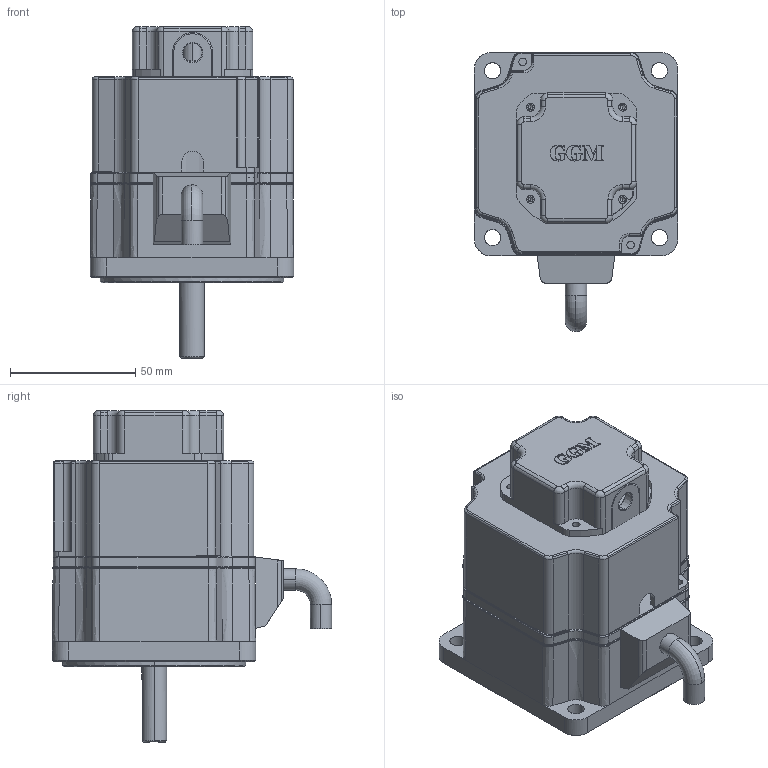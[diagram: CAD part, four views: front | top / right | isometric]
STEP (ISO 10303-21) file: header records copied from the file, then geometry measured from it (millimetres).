
FILE_DESCRIPTION (( 'STEP AP214' ), '1' );
FILE_NAME ('X Series 50w_brake-encoder_S.STEP', '2023-08-16T06:28:03', ( '' ), ( '' ), 'SwSTEP 2.0', 'SolidWorks 2022', '' );
FILE_SCHEMA (( 'AUTOMOTIVE_DESIGN' ));
Length unit declared in the file: millimetre
Products named in the file (8): ENCODER COVER ASS''Y; K8BS60N__.stp.STEP; X Series 50w_brake-encoder_S; LEAD BUSH.stp; B Series 60w_brake_S.stp.STEP; X Series 50w_brake_S.STEP; BRAKE COVER ____.stp.STEP; ENCODER COVER
Assembly tree (7 placements, depth 4):
  X Series 50w_brake-encoder_S
    X Series 50w_brake_S.STEP
      B Series 60w_brake_S.stp.STEP
        K8BS60N__.stp.STEP
        BRAKE COVER ____.stp.STEP
    ENCODER COVER ASS''Y
      LEAD BUSH.stp
      ENCODER COVER
Bounding box: 81.1 x 111.3 x 132.3 mm (x, y, z)
Volume: 324411.5 mm3; surface area: 87195.8 mm2
Topology: 13 solids, 13 shells, 1045 faces, 2700 edges, 1696 vertices
Faces by surface type: cylinder 440, plane 386, bspline 86, torus 74, cone 43, sphere 16
Entity records: 36290 total; most frequent: CARTESIAN_POINT 10668, ORIENTED_EDGE 5372, DIRECTION 4673, EDGE_CURVE 2686, AXIS2_PLACEMENT_3D 1734, VERTEX_POINT 1696, LINE 1205, VECTOR 1205
